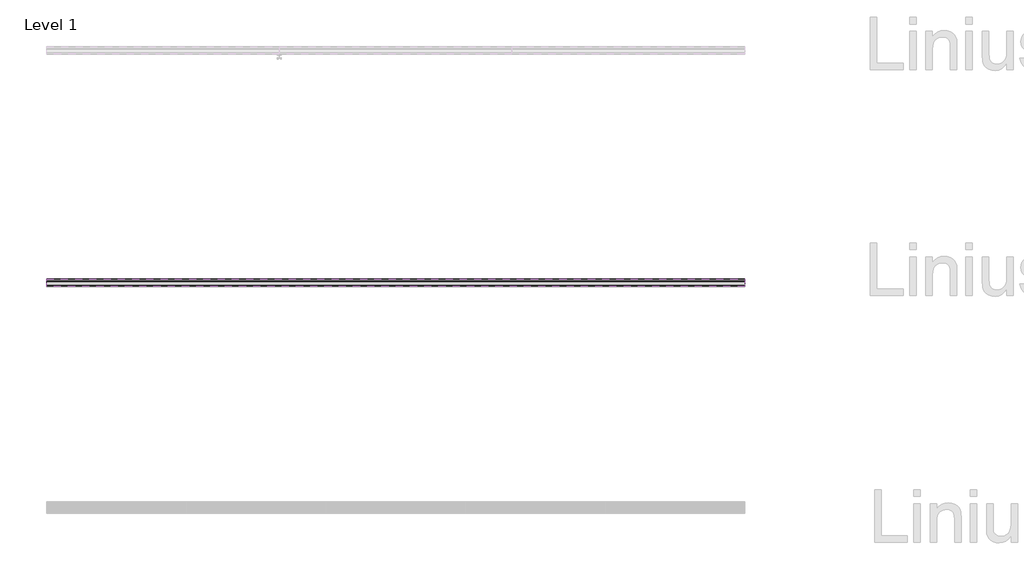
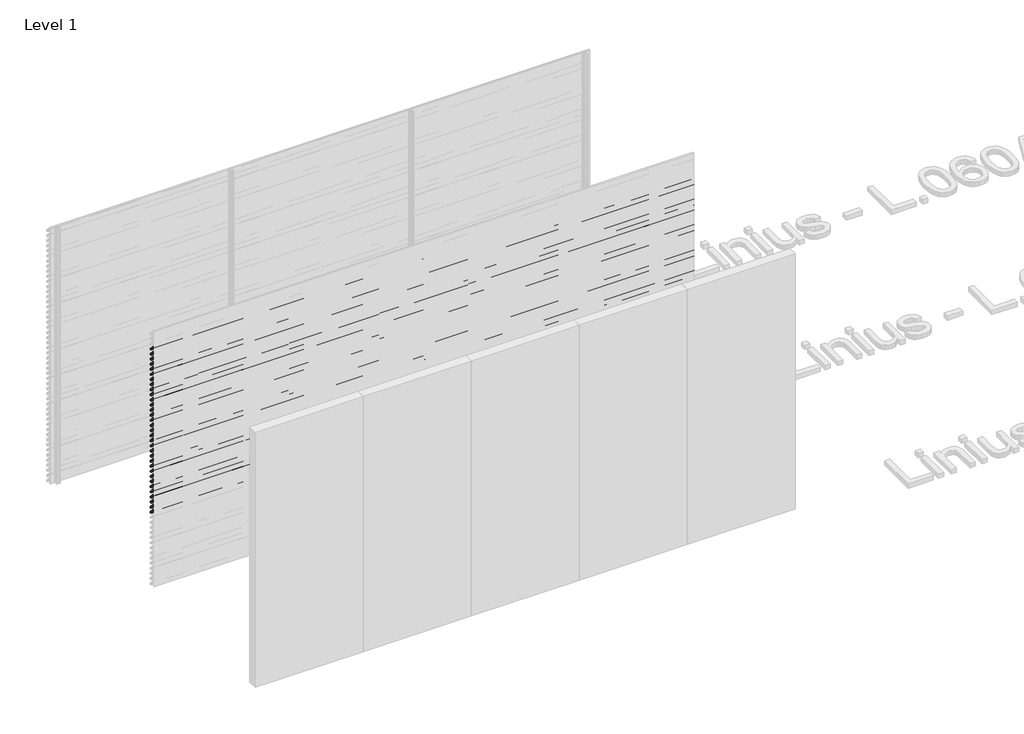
# One storey, part 49 of 153: 33 proxies.
"""IFC4 building model written with IfcOpenShell, lengths in millimetres."""

from ifc_helpers import new_model, si_unit, point, frame, frame_2d, origin, place, context, project, spatial, polyline, circle_curve, trimmed, segment, composite_curve, outline, extrude, element, save

model = new_model("IFC4")

# Units and contexts
model_context = context("Model", 3, world=origin())
ifc_project = project(units=[si_unit("LENGTHUNIT", "METRE", prefix="MILLI")], contexts=[model_context])

# Site, building, storey
site = spatial("IfcSite", under=ifc_project)
building = spatial("IfcBuilding", under=site)
storey = spatial("IfcBuildingStorey", under=building, Name="Level 1", Elevation=0.0)

# Proxies
placement = place(None, origin())
element("IfcBuildingElementProxy", 1, Name="Wall Sweeps", at=placement, inside=storey, context=model_context, shape_type="SweptSolid", body=[
    extrude(outline(composite_curve([segment(polyline([(19485.0540136, 2820.0), (19499.874191, 2818.7034025), (19549.0540136, 2765.0102749), (19549.0540136, 2753.6108187)]), True, "CONTINUOUS"), segment(trimmed(circle_curve(frame_2d((19545.7883652, 2753.897153)), 3.2781774), [point((19549.0540136, 2753.6108187))], [point((19546.4639442, 2750.6893438))], False, "CARTESIAN"), True, "CONTINUOUS"), segment(polyline([(19546.4639442, 2750.6893438), (19534.1895723, 2751.6282758), (19485.0540136, 2805.2730773), (19485.0540136, 2820.0)]), True, "CONTINUOUS")], self_intersect=False), holes=[composite_curve([segment(polyline([(19499.1621773, 2817.2599659), (19486.5540136, 2818.3630372), (19486.5540136, 2805.856213), (19534.8952036, 2753.0786805), (19546.3312542, 2752.2038762)]), True, "CONTINUOUS"), segment(trimmed(circle_curve(frame_2d((19545.7883652, 2753.897153)), 1.7781774), [point((19546.3312542, 2752.2038762))], [point((19547.5540136, 2753.6864389))], True, "CARTESIAN"), True, "CONTINUOUS"), segment(polyline([(19547.5540136, 2753.6864389), (19547.5540136, 2764.4271392), (19499.1621773, 2817.2599659)]), True, "CONTINUOUS")], self_intersect=False)]), frame((44966.6208097, 0.0, 0.0), z_axis=(1.0, 0.0, 0.0), x_axis=(0.0, 1.0, 0.0)), (0.0, 0.0, 1.0), 6000.0),
])
element("IfcBuildingElementProxy", 2, Name="Wall Sweeps", at=placement, inside=storey, context=model_context, shape_type="SweptSolid", body=[
    extrude(outline(composite_curve([segment(polyline([(19485.0540136, 2760.0), (19499.874191, 2758.7034025), (19549.0540136, 2705.0102749), (19549.0540136, 2693.6108187)]), True, "CONTINUOUS"), segment(trimmed(circle_curve(frame_2d((19545.7883652, 2693.897153)), 3.2781774), [point((19549.0540136, 2693.6108187))], [point((19546.4639442, 2690.6893438))], False, "CARTESIAN"), True, "CONTINUOUS"), segment(polyline([(19546.4639442, 2690.6893438), (19534.1895723, 2691.6282758), (19485.0540136, 2745.2730773), (19485.0540136, 2760.0)]), True, "CONTINUOUS")], self_intersect=False), holes=[composite_curve([segment(polyline([(19499.1621773, 2757.2599659), (19486.5540136, 2758.3630372), (19486.5540136, 2745.856213), (19534.8952036, 2693.0786805), (19546.3312542, 2692.2038762)]), True, "CONTINUOUS"), segment(trimmed(circle_curve(frame_2d((19545.7883652, 2693.897153)), 1.7781774), [point((19546.3312542, 2692.2038762))], [point((19547.5540136, 2693.6864389))], True, "CARTESIAN"), True, "CONTINUOUS"), segment(polyline([(19547.5540136, 2693.6864389), (19547.5540136, 2704.4271392), (19499.1621773, 2757.2599659)]), True, "CONTINUOUS")], self_intersect=False)]), frame((44966.6208097, 0.0, 0.0), z_axis=(1.0, 0.0, 0.0), x_axis=(0.0, 1.0, 0.0)), (0.0, 0.0, 1.0), 6000.0),
])
element("IfcBuildingElementProxy", 3, Name="Wall Sweeps", at=placement, inside=storey, context=model_context, shape_type="SweptSolid", body=[
    extrude(outline(composite_curve([segment(polyline([(19485.0540136, 2700.0), (19499.874191, 2698.7034025), (19549.0540136, 2645.0102749), (19549.0540136, 2633.6108187)]), True, "CONTINUOUS"), segment(trimmed(circle_curve(frame_2d((19545.7883652, 2633.897153)), 3.2781774), [point((19549.0540136, 2633.6108187))], [point((19546.4639442, 2630.6893438))], False, "CARTESIAN"), True, "CONTINUOUS"), segment(polyline([(19546.4639442, 2630.6893438), (19534.1895723, 2631.6282758), (19485.0540136, 2685.2730773), (19485.0540136, 2700.0)]), True, "CONTINUOUS")], self_intersect=False), holes=[composite_curve([segment(polyline([(19499.1621773, 2697.2599659), (19486.5540136, 2698.3630372), (19486.5540136, 2685.856213), (19534.8952036, 2633.0786805), (19546.3312542, 2632.2038762)]), True, "CONTINUOUS"), segment(trimmed(circle_curve(frame_2d((19545.7883652, 2633.897153)), 1.7781774), [point((19546.3312542, 2632.2038762))], [point((19547.5540136, 2633.6864389))], True, "CARTESIAN"), True, "CONTINUOUS"), segment(polyline([(19547.5540136, 2633.6864389), (19547.5540136, 2644.4271392), (19499.1621773, 2697.2599659)]), True, "CONTINUOUS")], self_intersect=False)]), frame((44966.6208097, 0.0, 0.0), z_axis=(1.0, 0.0, 0.0), x_axis=(0.0, 1.0, 0.0)), (0.0, 0.0, 1.0), 6000.0),
])
element("IfcBuildingElementProxy", 4, Name="Wall Sweeps", at=placement, inside=storey, context=model_context, shape_type="SweptSolid", body=[
    extrude(outline(composite_curve([segment(polyline([(19485.0540136, 2640.0), (19499.874191, 2638.7034025), (19549.0540136, 2585.0102749), (19549.0540136, 2573.6108187)]), True, "CONTINUOUS"), segment(trimmed(circle_curve(frame_2d((19545.7883652, 2573.897153)), 3.2781774), [point((19549.0540136, 2573.6108187))], [point((19546.4639442, 2570.6893438))], False, "CARTESIAN"), True, "CONTINUOUS"), segment(polyline([(19546.4639442, 2570.6893438), (19534.1895723, 2571.6282758), (19485.0540136, 2625.2730773), (19485.0540136, 2640.0)]), True, "CONTINUOUS")], self_intersect=False), holes=[composite_curve([segment(polyline([(19499.1621773, 2637.2599659), (19486.5540136, 2638.3630372), (19486.5540136, 2625.856213), (19534.8952036, 2573.0786805), (19546.3312542, 2572.2038762)]), True, "CONTINUOUS"), segment(trimmed(circle_curve(frame_2d((19545.7883652, 2573.897153)), 1.7781774), [point((19546.3312542, 2572.2038762))], [point((19547.5540136, 2573.6864389))], True, "CARTESIAN"), True, "CONTINUOUS"), segment(polyline([(19547.5540136, 2573.6864389), (19547.5540136, 2584.4271392), (19499.1621773, 2637.2599659)]), True, "CONTINUOUS")], self_intersect=False)]), frame((44966.6208097, 0.0, 0.0), z_axis=(1.0, 0.0, 0.0), x_axis=(0.0, 1.0, 0.0)), (0.0, 0.0, 1.0), 6000.0),
])
element("IfcBuildingElementProxy", 5, Name="Wall Sweeps", at=placement, inside=storey, context=model_context, shape_type="SweptSolid", body=[
    extrude(outline(composite_curve([segment(polyline([(19485.0540136, 2580.0), (19499.874191, 2578.7034025), (19549.0540136, 2525.0102749), (19549.0540136, 2513.6108187)]), True, "CONTINUOUS"), segment(trimmed(circle_curve(frame_2d((19545.7883652, 2513.897153)), 3.2781774), [point((19549.0540136, 2513.6108187))], [point((19546.4639442, 2510.6893438))], False, "CARTESIAN"), True, "CONTINUOUS"), segment(polyline([(19546.4639442, 2510.6893438), (19534.1895723, 2511.6282758), (19485.0540136, 2565.2730773), (19485.0540136, 2580.0)]), True, "CONTINUOUS")], self_intersect=False), holes=[composite_curve([segment(polyline([(19499.1621773, 2577.2599659), (19486.5540136, 2578.3630372), (19486.5540136, 2565.856213), (19534.8952036, 2513.0786805), (19546.3312542, 2512.2038762)]), True, "CONTINUOUS"), segment(trimmed(circle_curve(frame_2d((19545.7883652, 2513.897153)), 1.7781774), [point((19546.3312542, 2512.2038762))], [point((19547.5540136, 2513.6864389))], True, "CARTESIAN"), True, "CONTINUOUS"), segment(polyline([(19547.5540136, 2513.6864389), (19547.5540136, 2524.4271392), (19499.1621773, 2577.2599659)]), True, "CONTINUOUS")], self_intersect=False)]), frame((44966.6208097, 0.0, 0.0), z_axis=(1.0, 0.0, 0.0), x_axis=(0.0, 1.0, 0.0)), (0.0, 0.0, 1.0), 6000.0),
])
element("IfcBuildingElementProxy", 6, Name="Wall Sweeps", at=placement, inside=storey, context=model_context, shape_type="SweptSolid", body=[
    extrude(outline(composite_curve([segment(polyline([(19485.0540136, 2520.0), (19499.874191, 2518.7034025), (19549.0540136, 2465.0102749), (19549.0540136, 2453.6108187)]), True, "CONTINUOUS"), segment(trimmed(circle_curve(frame_2d((19545.7883652, 2453.897153)), 3.2781774), [point((19549.0540136, 2453.6108187))], [point((19546.4639442, 2450.6893438))], False, "CARTESIAN"), True, "CONTINUOUS"), segment(polyline([(19546.4639442, 2450.6893438), (19534.1895723, 2451.6282758), (19485.0540136, 2505.2730773), (19485.0540136, 2520.0)]), True, "CONTINUOUS")], self_intersect=False), holes=[composite_curve([segment(polyline([(19499.1621773, 2517.2599659), (19486.5540136, 2518.3630372), (19486.5540136, 2505.856213), (19534.8952036, 2453.0786805), (19546.3312542, 2452.2038762)]), True, "CONTINUOUS"), segment(trimmed(circle_curve(frame_2d((19545.7883652, 2453.897153)), 1.7781774), [point((19546.3312542, 2452.2038762))], [point((19547.5540136, 2453.6864389))], True, "CARTESIAN"), True, "CONTINUOUS"), segment(polyline([(19547.5540136, 2453.6864389), (19547.5540136, 2464.4271392), (19499.1621773, 2517.2599659)]), True, "CONTINUOUS")], self_intersect=False)]), frame((44966.6208097, 0.0, 0.0), z_axis=(1.0, 0.0, 0.0), x_axis=(0.0, 1.0, 0.0)), (0.0, 0.0, 1.0), 6000.0),
])
element("IfcBuildingElementProxy", 7, Name="Wall Sweeps", at=placement, inside=storey, context=model_context, shape_type="SweptSolid", body=[
    extrude(outline(composite_curve([segment(polyline([(19485.0540136, 2460.0), (19499.874191, 2458.7034025), (19549.0540136, 2405.0102749), (19549.0540136, 2393.6108187)]), True, "CONTINUOUS"), segment(trimmed(circle_curve(frame_2d((19545.7883652, 2393.897153)), 3.2781774), [point((19549.0540136, 2393.6108187))], [point((19546.4639442, 2390.6893438))], False, "CARTESIAN"), True, "CONTINUOUS"), segment(polyline([(19546.4639442, 2390.6893438), (19534.1895723, 2391.6282758), (19485.0540136, 2445.2730773), (19485.0540136, 2460.0)]), True, "CONTINUOUS")], self_intersect=False), holes=[composite_curve([segment(polyline([(19499.1621773, 2457.2599659), (19486.5540136, 2458.3630372), (19486.5540136, 2445.856213), (19534.8952036, 2393.0786805), (19546.3312542, 2392.2038762)]), True, "CONTINUOUS"), segment(trimmed(circle_curve(frame_2d((19545.7883652, 2393.897153)), 1.7781774), [point((19546.3312542, 2392.2038762))], [point((19547.5540136, 2393.6864389))], True, "CARTESIAN"), True, "CONTINUOUS"), segment(polyline([(19547.5540136, 2393.6864389), (19547.5540136, 2404.4271392), (19499.1621773, 2457.2599659)]), True, "CONTINUOUS")], self_intersect=False)]), frame((44966.6208097, 0.0, 0.0), z_axis=(1.0, 0.0, 0.0), x_axis=(0.0, 1.0, 0.0)), (0.0, 0.0, 1.0), 6000.0),
])
element("IfcBuildingElementProxy", 8, Name="Wall Sweeps", at=placement, inside=storey, context=model_context, shape_type="SweptSolid", body=[
    extrude(outline(composite_curve([segment(polyline([(19485.0540136, 2400.0), (19499.874191, 2398.7034025), (19549.0540136, 2345.0102749), (19549.0540136, 2333.6108187)]), True, "CONTINUOUS"), segment(trimmed(circle_curve(frame_2d((19545.7883652, 2333.897153)), 3.2781774), [point((19549.0540136, 2333.6108187))], [point((19546.4639442, 2330.6893438))], False, "CARTESIAN"), True, "CONTINUOUS"), segment(polyline([(19546.4639442, 2330.6893438), (19534.1895723, 2331.6282758), (19485.0540136, 2385.2730773), (19485.0540136, 2400.0)]), True, "CONTINUOUS")], self_intersect=False), holes=[composite_curve([segment(polyline([(19499.1621773, 2397.2599659), (19486.5540136, 2398.3630372), (19486.5540136, 2385.856213), (19534.8952036, 2333.0786805), (19546.3312542, 2332.2038762)]), True, "CONTINUOUS"), segment(trimmed(circle_curve(frame_2d((19545.7883652, 2333.897153)), 1.7781774), [point((19546.3312542, 2332.2038762))], [point((19547.5540136, 2333.6864389))], True, "CARTESIAN"), True, "CONTINUOUS"), segment(polyline([(19547.5540136, 2333.6864389), (19547.5540136, 2344.4271392), (19499.1621773, 2397.2599659)]), True, "CONTINUOUS")], self_intersect=False)]), frame((44966.6208097, 0.0, 0.0), z_axis=(1.0, 0.0, 0.0), x_axis=(0.0, 1.0, 0.0)), (0.0, 0.0, 1.0), 6000.0),
])
element("IfcBuildingElementProxy", 9, Name="Wall Sweeps", at=placement, inside=storey, context=model_context, shape_type="SweptSolid", body=[
    extrude(outline(composite_curve([segment(polyline([(19485.0540136, 2340.0), (19499.874191, 2338.7034025), (19549.0540136, 2285.0102749), (19549.0540136, 2273.6108187)]), True, "CONTINUOUS"), segment(trimmed(circle_curve(frame_2d((19545.7883652, 2273.897153)), 3.2781774), [point((19549.0540136, 2273.6108187))], [point((19546.4639442, 2270.6893438))], False, "CARTESIAN"), True, "CONTINUOUS"), segment(polyline([(19546.4639442, 2270.6893438), (19534.1895723, 2271.6282758), (19485.0540136, 2325.2730773), (19485.0540136, 2340.0)]), True, "CONTINUOUS")], self_intersect=False), holes=[composite_curve([segment(polyline([(19499.1621773, 2337.2599659), (19486.5540136, 2338.3630372), (19486.5540136, 2325.856213), (19534.8952036, 2273.0786805), (19546.3312542, 2272.2038762)]), True, "CONTINUOUS"), segment(trimmed(circle_curve(frame_2d((19545.7883652, 2273.897153)), 1.7781774), [point((19546.3312542, 2272.2038762))], [point((19547.5540136, 2273.6864389))], True, "CARTESIAN"), True, "CONTINUOUS"), segment(polyline([(19547.5540136, 2273.6864389), (19547.5540136, 2284.4271392), (19499.1621773, 2337.2599659)]), True, "CONTINUOUS")], self_intersect=False)]), frame((44966.6208097, 0.0, 0.0), z_axis=(1.0, 0.0, 0.0), x_axis=(0.0, 1.0, 0.0)), (0.0, 0.0, 1.0), 6000.0),
])
element("IfcBuildingElementProxy", 10, Name="Wall Sweeps", at=placement, inside=storey, context=model_context, shape_type="SweptSolid", body=[
    extrude(outline(composite_curve([segment(polyline([(19485.0540136, 2280.0), (19499.874191, 2278.7034025), (19549.0540136, 2225.0102749), (19549.0540136, 2213.6108187)]), True, "CONTINUOUS"), segment(trimmed(circle_curve(frame_2d((19545.7883652, 2213.897153)), 3.2781774), [point((19549.0540136, 2213.6108187))], [point((19546.4639442, 2210.6893438))], False, "CARTESIAN"), True, "CONTINUOUS"), segment(polyline([(19546.4639442, 2210.6893438), (19534.1895723, 2211.6282758), (19485.0540136, 2265.2730773), (19485.0540136, 2280.0)]), True, "CONTINUOUS")], self_intersect=False), holes=[composite_curve([segment(polyline([(19499.1621773, 2277.2599659), (19486.5540136, 2278.3630372), (19486.5540136, 2265.856213), (19534.8952036, 2213.0786805), (19546.3312542, 2212.2038762)]), True, "CONTINUOUS"), segment(trimmed(circle_curve(frame_2d((19545.7883652, 2213.897153)), 1.7781774), [point((19546.3312542, 2212.2038762))], [point((19547.5540136, 2213.6864389))], True, "CARTESIAN"), True, "CONTINUOUS"), segment(polyline([(19547.5540136, 2213.6864389), (19547.5540136, 2224.4271392), (19499.1621773, 2277.2599659)]), True, "CONTINUOUS")], self_intersect=False)]), frame((44966.6208097, 0.0, 0.0), z_axis=(1.0, 0.0, 0.0), x_axis=(0.0, 1.0, 0.0)), (0.0, 0.0, 1.0), 6000.0),
])
element("IfcBuildingElementProxy", 11, Name="Wall Sweeps", at=placement, inside=storey, context=model_context, shape_type="SweptSolid", body=[
    extrude(outline(composite_curve([segment(polyline([(19485.0540136, 2220.0), (19499.874191, 2218.7034025), (19549.0540136, 2165.0102749), (19549.0540136, 2153.6108187)]), True, "CONTINUOUS"), segment(trimmed(circle_curve(frame_2d((19545.7883652, 2153.897153)), 3.2781774), [point((19549.0540136, 2153.6108187))], [point((19546.4639442, 2150.6893438))], False, "CARTESIAN"), True, "CONTINUOUS"), segment(polyline([(19546.4639442, 2150.6893438), (19534.1895723, 2151.6282758), (19485.0540136, 2205.2730773), (19485.0540136, 2220.0)]), True, "CONTINUOUS")], self_intersect=False), holes=[composite_curve([segment(polyline([(19499.1621773, 2217.2599659), (19486.5540136, 2218.3630372), (19486.5540136, 2205.856213), (19534.8952036, 2153.0786805), (19546.3312542, 2152.2038762)]), True, "CONTINUOUS"), segment(trimmed(circle_curve(frame_2d((19545.7883652, 2153.897153)), 1.7781774), [point((19546.3312542, 2152.2038762))], [point((19547.5540136, 2153.6864389))], True, "CARTESIAN"), True, "CONTINUOUS"), segment(polyline([(19547.5540136, 2153.6864389), (19547.5540136, 2164.4271392), (19499.1621773, 2217.2599659)]), True, "CONTINUOUS")], self_intersect=False)]), frame((44966.6208097, 0.0, 0.0), z_axis=(1.0, 0.0, 0.0), x_axis=(0.0, 1.0, 0.0)), (0.0, 0.0, 1.0), 6000.0),
])
element("IfcBuildingElementProxy", 12, Name="Wall Sweeps", at=placement, inside=storey, context=model_context, shape_type="SweptSolid", body=[
    extrude(outline(composite_curve([segment(polyline([(19485.0540136, 2160.0), (19499.874191, 2158.7034025), (19549.0540136, 2105.0102749), (19549.0540136, 2093.6108187)]), True, "CONTINUOUS"), segment(trimmed(circle_curve(frame_2d((19545.7883652, 2093.897153)), 3.2781774), [point((19549.0540136, 2093.6108187))], [point((19546.4639442, 2090.6893438))], False, "CARTESIAN"), True, "CONTINUOUS"), segment(polyline([(19546.4639442, 2090.6893438), (19534.1895723, 2091.6282758), (19485.0540136, 2145.2730773), (19485.0540136, 2160.0)]), True, "CONTINUOUS")], self_intersect=False), holes=[composite_curve([segment(polyline([(19499.1621773, 2157.2599659), (19486.5540136, 2158.3630372), (19486.5540136, 2145.856213), (19534.8952036, 2093.0786805), (19546.3312542, 2092.2038762)]), True, "CONTINUOUS"), segment(trimmed(circle_curve(frame_2d((19545.7883652, 2093.897153)), 1.7781774), [point((19546.3312542, 2092.2038762))], [point((19547.5540136, 2093.6864389))], True, "CARTESIAN"), True, "CONTINUOUS"), segment(polyline([(19547.5540136, 2093.6864389), (19547.5540136, 2104.4271392), (19499.1621773, 2157.2599659)]), True, "CONTINUOUS")], self_intersect=False)]), frame((44966.6208097, 0.0, 0.0), z_axis=(1.0, 0.0, 0.0), x_axis=(0.0, 1.0, 0.0)), (0.0, 0.0, 1.0), 6000.0),
])
element("IfcBuildingElementProxy", 13, Name="Wall Sweeps", at=placement, inside=storey, context=model_context, shape_type="SweptSolid", body=[
    extrude(outline(composite_curve([segment(polyline([(19485.0540136, 2100.0), (19499.874191, 2098.7034025), (19549.0540136, 2045.0102749), (19549.0540136, 2033.6108187)]), True, "CONTINUOUS"), segment(trimmed(circle_curve(frame_2d((19545.7883652, 2033.897153)), 3.2781774), [point((19549.0540136, 2033.6108187))], [point((19546.4639442, 2030.6893438))], False, "CARTESIAN"), True, "CONTINUOUS"), segment(polyline([(19546.4639442, 2030.6893438), (19534.1895723, 2031.6282758), (19485.0540136, 2085.2730773), (19485.0540136, 2100.0)]), True, "CONTINUOUS")], self_intersect=False), holes=[composite_curve([segment(polyline([(19499.1621773, 2097.2599659), (19486.5540136, 2098.3630372), (19486.5540136, 2085.856213), (19534.8952036, 2033.0786805), (19546.3312542, 2032.2038762)]), True, "CONTINUOUS"), segment(trimmed(circle_curve(frame_2d((19545.7883652, 2033.897153)), 1.7781774), [point((19546.3312542, 2032.2038762))], [point((19547.5540136, 2033.6864389))], True, "CARTESIAN"), True, "CONTINUOUS"), segment(polyline([(19547.5540136, 2033.6864389), (19547.5540136, 2044.4271392), (19499.1621773, 2097.2599659)]), True, "CONTINUOUS")], self_intersect=False)]), frame((44966.6208097, 0.0, 0.0), z_axis=(1.0, 0.0, 0.0), x_axis=(0.0, 1.0, 0.0)), (0.0, 0.0, 1.0), 6000.0),
])
element("IfcBuildingElementProxy", 14, Name="Wall Sweeps", at=placement, inside=storey, context=model_context, shape_type="SweptSolid", body=[
    extrude(outline(composite_curve([segment(polyline([(19485.0540136, 2040.0), (19499.874191, 2038.7034025), (19549.0540136, 1985.0102749), (19549.0540136, 1973.6108187)]), True, "CONTINUOUS"), segment(trimmed(circle_curve(frame_2d((19545.7883652, 1973.897153)), 3.2781774), [point((19549.0540136, 1973.6108187))], [point((19546.4639442, 1970.6893438))], False, "CARTESIAN"), True, "CONTINUOUS"), segment(polyline([(19546.4639442, 1970.6893438), (19534.1895723, 1971.6282758), (19485.0540136, 2025.2730773), (19485.0540136, 2040.0)]), True, "CONTINUOUS")], self_intersect=False), holes=[composite_curve([segment(polyline([(19499.1621773, 2037.2599659), (19486.5540136, 2038.3630372), (19486.5540136, 2025.856213), (19534.8952036, 1973.0786805), (19546.3312542, 1972.2038762)]), True, "CONTINUOUS"), segment(trimmed(circle_curve(frame_2d((19545.7883652, 1973.897153)), 1.7781774), [point((19546.3312542, 1972.2038762))], [point((19547.5540136, 1973.6864389))], True, "CARTESIAN"), True, "CONTINUOUS"), segment(polyline([(19547.5540136, 1973.6864389), (19547.5540136, 1984.4271392), (19499.1621773, 2037.2599659)]), True, "CONTINUOUS")], self_intersect=False)]), frame((44966.6208097, 0.0, 0.0), z_axis=(1.0, 0.0, 0.0), x_axis=(0.0, 1.0, 0.0)), (0.0, 0.0, 1.0), 6000.0),
])
element("IfcBuildingElementProxy", 15, Name="Wall Sweeps", at=placement, inside=storey, context=model_context, shape_type="SweptSolid", body=[
    extrude(outline(composite_curve([segment(polyline([(19485.0540136, 1980.0), (19499.874191, 1978.7034025), (19549.0540136, 1925.0102749), (19549.0540136, 1913.6108187)]), True, "CONTINUOUS"), segment(trimmed(circle_curve(frame_2d((19545.7883652, 1913.897153)), 3.2781774), [point((19549.0540136, 1913.6108187))], [point((19546.4639442, 1910.6893438))], False, "CARTESIAN"), True, "CONTINUOUS"), segment(polyline([(19546.4639442, 1910.6893438), (19534.1895723, 1911.6282758), (19485.0540136, 1965.2730773), (19485.0540136, 1980.0)]), True, "CONTINUOUS")], self_intersect=False), holes=[composite_curve([segment(polyline([(19499.1621773, 1977.2599659), (19486.5540136, 1978.3630372), (19486.5540136, 1965.856213), (19534.8952036, 1913.0786805), (19546.3312542, 1912.2038762)]), True, "CONTINUOUS"), segment(trimmed(circle_curve(frame_2d((19545.7883652, 1913.897153)), 1.7781774), [point((19546.3312542, 1912.2038762))], [point((19547.5540136, 1913.6864389))], True, "CARTESIAN"), True, "CONTINUOUS"), segment(polyline([(19547.5540136, 1913.6864389), (19547.5540136, 1924.4271392), (19499.1621773, 1977.2599659)]), True, "CONTINUOUS")], self_intersect=False)]), frame((44966.6208097, 0.0, 0.0), z_axis=(1.0, 0.0, 0.0), x_axis=(0.0, 1.0, 0.0)), (0.0, 0.0, 1.0), 6000.0),
])
element("IfcBuildingElementProxy", 16, Name="Wall Sweeps", at=placement, inside=storey, context=model_context, shape_type="SweptSolid", body=[
    extrude(outline(composite_curve([segment(polyline([(19485.0540136, 1920.0), (19499.874191, 1918.7034025), (19549.0540136, 1865.0102749), (19549.0540136, 1853.6108187)]), True, "CONTINUOUS"), segment(trimmed(circle_curve(frame_2d((19545.7883652, 1853.897153)), 3.2781774), [point((19549.0540136, 1853.6108187))], [point((19546.4639442, 1850.6893438))], False, "CARTESIAN"), True, "CONTINUOUS"), segment(polyline([(19546.4639442, 1850.6893438), (19534.1895723, 1851.6282758), (19485.0540136, 1905.2730773), (19485.0540136, 1920.0)]), True, "CONTINUOUS")], self_intersect=False), holes=[composite_curve([segment(polyline([(19499.1621773, 1917.2599659), (19486.5540136, 1918.3630372), (19486.5540136, 1905.856213), (19534.8952036, 1853.0786805), (19546.3312542, 1852.2038762)]), True, "CONTINUOUS"), segment(trimmed(circle_curve(frame_2d((19545.7883652, 1853.897153)), 1.7781774), [point((19546.3312542, 1852.2038762))], [point((19547.5540136, 1853.6864389))], True, "CARTESIAN"), True, "CONTINUOUS"), segment(polyline([(19547.5540136, 1853.6864389), (19547.5540136, 1864.4271392), (19499.1621773, 1917.2599659)]), True, "CONTINUOUS")], self_intersect=False)]), frame((44966.6208097, 0.0, 0.0), z_axis=(1.0, 0.0, 0.0), x_axis=(0.0, 1.0, 0.0)), (0.0, 0.0, 1.0), 6000.0),
])
element("IfcBuildingElementProxy", 17, Name="Wall Sweeps", at=placement, inside=storey, context=model_context, shape_type="SweptSolid", body=[
    extrude(outline(composite_curve([segment(polyline([(19485.0540136, 1860.0), (19499.874191, 1858.7034025), (19549.0540136, 1805.0102749), (19549.0540136, 1793.6108187)]), True, "CONTINUOUS"), segment(trimmed(circle_curve(frame_2d((19545.7883652, 1793.897153)), 3.2781774), [point((19549.0540136, 1793.6108187))], [point((19546.4639442, 1790.6893438))], False, "CARTESIAN"), True, "CONTINUOUS"), segment(polyline([(19546.4639442, 1790.6893438), (19534.1895723, 1791.6282758), (19485.0540136, 1845.2730773), (19485.0540136, 1860.0)]), True, "CONTINUOUS")], self_intersect=False), holes=[composite_curve([segment(polyline([(19499.1621773, 1857.2599659), (19486.5540136, 1858.3630372), (19486.5540136, 1845.856213), (19534.8952036, 1793.0786805), (19546.3312542, 1792.2038762)]), True, "CONTINUOUS"), segment(trimmed(circle_curve(frame_2d((19545.7883652, 1793.897153)), 1.7781774), [point((19546.3312542, 1792.2038762))], [point((19547.5540136, 1793.6864389))], True, "CARTESIAN"), True, "CONTINUOUS"), segment(polyline([(19547.5540136, 1793.6864389), (19547.5540136, 1804.4271392), (19499.1621773, 1857.2599659)]), True, "CONTINUOUS")], self_intersect=False)]), frame((44966.6208097, 0.0, 0.0), z_axis=(1.0, 0.0, 0.0), x_axis=(0.0, 1.0, 0.0)), (0.0, 0.0, 1.0), 6000.0),
])
element("IfcBuildingElementProxy", 18, Name="Wall Sweeps", at=placement, inside=storey, context=model_context, shape_type="SweptSolid", body=[
    extrude(outline(composite_curve([segment(polyline([(19485.0540136, 1800.0), (19499.874191, 1798.7034025), (19549.0540136, 1745.0102749), (19549.0540136, 1733.6108187)]), True, "CONTINUOUS"), segment(trimmed(circle_curve(frame_2d((19545.7883652, 1733.897153)), 3.2781774), [point((19549.0540136, 1733.6108187))], [point((19546.4639442, 1730.6893438))], False, "CARTESIAN"), True, "CONTINUOUS"), segment(polyline([(19546.4639442, 1730.6893438), (19534.1895723, 1731.6282758), (19485.0540136, 1785.2730773), (19485.0540136, 1800.0)]), True, "CONTINUOUS")], self_intersect=False), holes=[composite_curve([segment(polyline([(19499.1621773, 1797.2599659), (19486.5540136, 1798.3630372), (19486.5540136, 1785.856213), (19534.8952036, 1733.0786805), (19546.3312542, 1732.2038762)]), True, "CONTINUOUS"), segment(trimmed(circle_curve(frame_2d((19545.7883652, 1733.897153)), 1.7781774), [point((19546.3312542, 1732.2038762))], [point((19547.5540136, 1733.6864389))], True, "CARTESIAN"), True, "CONTINUOUS"), segment(polyline([(19547.5540136, 1733.6864389), (19547.5540136, 1744.4271392), (19499.1621773, 1797.2599659)]), True, "CONTINUOUS")], self_intersect=False)]), frame((44966.6208097, 0.0, 0.0), z_axis=(1.0, 0.0, 0.0), x_axis=(0.0, 1.0, 0.0)), (0.0, 0.0, 1.0), 6000.0),
])
element("IfcBuildingElementProxy", 19, Name="Wall Sweeps", at=placement, inside=storey, context=model_context, shape_type="SweptSolid", body=[
    extrude(outline(composite_curve([segment(polyline([(19485.0540136, 1740.0), (19499.874191, 1738.7034025), (19549.0540136, 1685.0102749), (19549.0540136, 1673.6108187)]), True, "CONTINUOUS"), segment(trimmed(circle_curve(frame_2d((19545.7883652, 1673.897153)), 3.2781774), [point((19549.0540136, 1673.6108187))], [point((19546.4639442, 1670.6893438))], False, "CARTESIAN"), True, "CONTINUOUS"), segment(polyline([(19546.4639442, 1670.6893438), (19534.1895723, 1671.6282758), (19485.0540136, 1725.2730773), (19485.0540136, 1740.0)]), True, "CONTINUOUS")], self_intersect=False), holes=[composite_curve([segment(polyline([(19499.1621773, 1737.2599659), (19486.5540136, 1738.3630372), (19486.5540136, 1725.856213), (19534.8952036, 1673.0786805), (19546.3312542, 1672.2038762)]), True, "CONTINUOUS"), segment(trimmed(circle_curve(frame_2d((19545.7883652, 1673.897153)), 1.7781774), [point((19546.3312542, 1672.2038762))], [point((19547.5540136, 1673.6864389))], True, "CARTESIAN"), True, "CONTINUOUS"), segment(polyline([(19547.5540136, 1673.6864389), (19547.5540136, 1684.4271392), (19499.1621773, 1737.2599659)]), True, "CONTINUOUS")], self_intersect=False)]), frame((44966.6208097, 0.0, 0.0), z_axis=(1.0, 0.0, 0.0), x_axis=(0.0, 1.0, 0.0)), (0.0, 0.0, 1.0), 6000.0),
])
element("IfcBuildingElementProxy", 20, Name="Wall Sweeps", at=placement, inside=storey, context=model_context, shape_type="SweptSolid", body=[
    extrude(outline(composite_curve([segment(polyline([(19485.0540136, 1680.0), (19499.874191, 1678.7034025), (19549.0540136, 1625.0102749), (19549.0540136, 1613.6108187)]), True, "CONTINUOUS"), segment(trimmed(circle_curve(frame_2d((19545.7883652, 1613.897153)), 3.2781774), [point((19549.0540136, 1613.6108187))], [point((19546.4639442, 1610.6893438))], False, "CARTESIAN"), True, "CONTINUOUS"), segment(polyline([(19546.4639442, 1610.6893438), (19534.1895723, 1611.6282758), (19485.0540136, 1665.2730773), (19485.0540136, 1680.0)]), True, "CONTINUOUS")], self_intersect=False), holes=[composite_curve([segment(polyline([(19499.1621773, 1677.2599659), (19486.5540136, 1678.3630372), (19486.5540136, 1665.856213), (19534.8952036, 1613.0786805), (19546.3312542, 1612.2038762)]), True, "CONTINUOUS"), segment(trimmed(circle_curve(frame_2d((19545.7883652, 1613.897153)), 1.7781774), [point((19546.3312542, 1612.2038762))], [point((19547.5540136, 1613.6864389))], True, "CARTESIAN"), True, "CONTINUOUS"), segment(polyline([(19547.5540136, 1613.6864389), (19547.5540136, 1624.4271392), (19499.1621773, 1677.2599659)]), True, "CONTINUOUS")], self_intersect=False)]), frame((44966.6208097, 0.0, 0.0), z_axis=(1.0, 0.0, 0.0), x_axis=(0.0, 1.0, 0.0)), (0.0, 0.0, 1.0), 6000.0),
])
element("IfcBuildingElementProxy", 21, Name="Wall Sweeps", at=placement, inside=storey, context=model_context, shape_type="SweptSolid", body=[
    extrude(outline(composite_curve([segment(polyline([(19485.0540136, 1620.0), (19499.874191, 1618.7034025), (19549.0540136, 1565.0102749), (19549.0540136, 1553.6108187)]), True, "CONTINUOUS"), segment(trimmed(circle_curve(frame_2d((19545.7883652, 1553.897153)), 3.2781774), [point((19549.0540136, 1553.6108187))], [point((19546.4639442, 1550.6893438))], False, "CARTESIAN"), True, "CONTINUOUS"), segment(polyline([(19546.4639442, 1550.6893438), (19534.1895723, 1551.6282758), (19485.0540136, 1605.2730773), (19485.0540136, 1620.0)]), True, "CONTINUOUS")], self_intersect=False), holes=[composite_curve([segment(polyline([(19499.1621773, 1617.2599659), (19486.5540136, 1618.3630372), (19486.5540136, 1605.856213), (19534.8952036, 1553.0786805), (19546.3312542, 1552.2038762)]), True, "CONTINUOUS"), segment(trimmed(circle_curve(frame_2d((19545.7883652, 1553.897153)), 1.7781774), [point((19546.3312542, 1552.2038762))], [point((19547.5540136, 1553.6864389))], True, "CARTESIAN"), True, "CONTINUOUS"), segment(polyline([(19547.5540136, 1553.6864389), (19547.5540136, 1564.4271392), (19499.1621773, 1617.2599659)]), True, "CONTINUOUS")], self_intersect=False)]), frame((44966.6208097, 0.0, 0.0), z_axis=(1.0, 0.0, 0.0), x_axis=(0.0, 1.0, 0.0)), (0.0, 0.0, 1.0), 6000.0),
])
element("IfcBuildingElementProxy", 22, Name="Wall Sweeps", at=placement, inside=storey, context=model_context, shape_type="SweptSolid", body=[
    extrude(outline(composite_curve([segment(polyline([(19485.0540136, 1560.0), (19499.874191, 1558.7034025), (19549.0540136, 1505.0102749), (19549.0540136, 1493.6108187)]), True, "CONTINUOUS"), segment(trimmed(circle_curve(frame_2d((19545.7883652, 1493.897153)), 3.2781774), [point((19549.0540136, 1493.6108187))], [point((19546.4639442, 1490.6893438))], False, "CARTESIAN"), True, "CONTINUOUS"), segment(polyline([(19546.4639442, 1490.6893438), (19534.1895723, 1491.6282758), (19485.0540136, 1545.2730773), (19485.0540136, 1560.0)]), True, "CONTINUOUS")], self_intersect=False), holes=[composite_curve([segment(polyline([(19499.1621773, 1557.2599659), (19486.5540136, 1558.3630372), (19486.5540136, 1545.856213), (19534.8952036, 1493.0786805), (19546.3312542, 1492.2038762)]), True, "CONTINUOUS"), segment(trimmed(circle_curve(frame_2d((19545.7883652, 1493.897153)), 1.7781774), [point((19546.3312542, 1492.2038762))], [point((19547.5540136, 1493.6864389))], True, "CARTESIAN"), True, "CONTINUOUS"), segment(polyline([(19547.5540136, 1493.6864389), (19547.5540136, 1504.4271392), (19499.1621773, 1557.2599659)]), True, "CONTINUOUS")], self_intersect=False)]), frame((44966.6208097, 0.0, 0.0), z_axis=(1.0, 0.0, 0.0), x_axis=(0.0, 1.0, 0.0)), (0.0, 0.0, 1.0), 6000.0),
])
element("IfcBuildingElementProxy", 23, Name="Wall Sweeps", at=placement, inside=storey, context=model_context, shape_type="SweptSolid", body=[
    extrude(outline(composite_curve([segment(polyline([(19485.0540136, 1500.0), (19499.874191, 1498.7034025), (19549.0540136, 1445.0102749), (19549.0540136, 1433.6108187)]), True, "CONTINUOUS"), segment(trimmed(circle_curve(frame_2d((19545.7883652, 1433.897153)), 3.2781774), [point((19549.0540136, 1433.6108187))], [point((19546.4639442, 1430.6893438))], False, "CARTESIAN"), True, "CONTINUOUS"), segment(polyline([(19546.4639442, 1430.6893438), (19534.1895723, 1431.6282758), (19485.0540136, 1485.2730773), (19485.0540136, 1500.0)]), True, "CONTINUOUS")], self_intersect=False), holes=[composite_curve([segment(polyline([(19499.1621773, 1497.2599659), (19486.5540136, 1498.3630372), (19486.5540136, 1485.856213), (19534.8952036, 1433.0786805), (19546.3312542, 1432.2038762)]), True, "CONTINUOUS"), segment(trimmed(circle_curve(frame_2d((19545.7883652, 1433.897153)), 1.7781774), [point((19546.3312542, 1432.2038762))], [point((19547.5540136, 1433.6864389))], True, "CARTESIAN"), True, "CONTINUOUS"), segment(polyline([(19547.5540136, 1433.6864389), (19547.5540136, 1444.4271392), (19499.1621773, 1497.2599659)]), True, "CONTINUOUS")], self_intersect=False)]), frame((44966.6208097, 0.0, 0.0), z_axis=(1.0, 0.0, 0.0), x_axis=(0.0, 1.0, 0.0)), (0.0, 0.0, 1.0), 6000.0),
])
element("IfcBuildingElementProxy", 24, Name="Wall Sweeps", at=placement, inside=storey, context=model_context, shape_type="SweptSolid", body=[
    extrude(outline(composite_curve([segment(polyline([(19485.0540136, 1440.0), (19499.874191, 1438.7034025), (19549.0540136, 1385.0102749), (19549.0540136, 1373.6108187)]), True, "CONTINUOUS"), segment(trimmed(circle_curve(frame_2d((19545.7883652, 1373.897153)), 3.2781774), [point((19549.0540136, 1373.6108187))], [point((19546.4639442, 1370.6893438))], False, "CARTESIAN"), True, "CONTINUOUS"), segment(polyline([(19546.4639442, 1370.6893438), (19534.1895723, 1371.6282758), (19485.0540136, 1425.2730773), (19485.0540136, 1440.0)]), True, "CONTINUOUS")], self_intersect=False), holes=[composite_curve([segment(polyline([(19499.1621773, 1437.2599659), (19486.5540136, 1438.3630372), (19486.5540136, 1425.856213), (19534.8952036, 1373.0786805), (19546.3312542, 1372.2038762)]), True, "CONTINUOUS"), segment(trimmed(circle_curve(frame_2d((19545.7883652, 1373.897153)), 1.7781774), [point((19546.3312542, 1372.2038762))], [point((19547.5540136, 1373.6864389))], True, "CARTESIAN"), True, "CONTINUOUS"), segment(polyline([(19547.5540136, 1373.6864389), (19547.5540136, 1384.4271392), (19499.1621773, 1437.2599659)]), True, "CONTINUOUS")], self_intersect=False)]), frame((44966.6208097, 0.0, 0.0), z_axis=(1.0, 0.0, 0.0), x_axis=(0.0, 1.0, 0.0)), (0.0, 0.0, 1.0), 6000.0),
])
element("IfcBuildingElementProxy", 25, Name="Wall Sweeps", at=placement, inside=storey, context=model_context, shape_type="SweptSolid", body=[
    extrude(outline(composite_curve([segment(polyline([(19485.0540136, 1380.0), (19499.874191, 1378.7034025), (19549.0540136, 1325.0102749), (19549.0540136, 1313.6108187)]), True, "CONTINUOUS"), segment(trimmed(circle_curve(frame_2d((19545.7883652, 1313.897153)), 3.2781774), [point((19549.0540136, 1313.6108187))], [point((19546.4639442, 1310.6893438))], False, "CARTESIAN"), True, "CONTINUOUS"), segment(polyline([(19546.4639442, 1310.6893438), (19534.1895723, 1311.6282758), (19485.0540136, 1365.2730773), (19485.0540136, 1380.0)]), True, "CONTINUOUS")], self_intersect=False), holes=[composite_curve([segment(polyline([(19499.1621773, 1377.2599659), (19486.5540136, 1378.3630372), (19486.5540136, 1365.856213), (19534.8952036, 1313.0786805), (19546.3312542, 1312.2038762)]), True, "CONTINUOUS"), segment(trimmed(circle_curve(frame_2d((19545.7883652, 1313.897153)), 1.7781774), [point((19546.3312542, 1312.2038762))], [point((19547.5540136, 1313.6864389))], True, "CARTESIAN"), True, "CONTINUOUS"), segment(polyline([(19547.5540136, 1313.6864389), (19547.5540136, 1324.4271392), (19499.1621773, 1377.2599659)]), True, "CONTINUOUS")], self_intersect=False)]), frame((44966.6208097, 0.0, 0.0), z_axis=(1.0, 0.0, 0.0), x_axis=(0.0, 1.0, 0.0)), (0.0, 0.0, 1.0), 6000.0),
])
element("IfcBuildingElementProxy", 26, Name="Wall Sweeps", at=placement, inside=storey, context=model_context, shape_type="SweptSolid", body=[
    extrude(outline(composite_curve([segment(polyline([(19485.0540136, 1320.0), (19499.874191, 1318.7034025), (19549.0540136, 1265.0102749), (19549.0540136, 1253.6108187)]), True, "CONTINUOUS"), segment(trimmed(circle_curve(frame_2d((19545.7883652, 1253.897153)), 3.2781774), [point((19549.0540136, 1253.6108187))], [point((19546.4639442, 1250.6893438))], False, "CARTESIAN"), True, "CONTINUOUS"), segment(polyline([(19546.4639442, 1250.6893438), (19534.1895723, 1251.6282758), (19485.0540136, 1305.2730773), (19485.0540136, 1320.0)]), True, "CONTINUOUS")], self_intersect=False), holes=[composite_curve([segment(polyline([(19499.1621773, 1317.2599659), (19486.5540136, 1318.3630372), (19486.5540136, 1305.856213), (19534.8952036, 1253.0786805), (19546.3312542, 1252.2038762)]), True, "CONTINUOUS"), segment(trimmed(circle_curve(frame_2d((19545.7883652, 1253.897153)), 1.7781774), [point((19546.3312542, 1252.2038762))], [point((19547.5540136, 1253.6864389))], True, "CARTESIAN"), True, "CONTINUOUS"), segment(polyline([(19547.5540136, 1253.6864389), (19547.5540136, 1264.4271392), (19499.1621773, 1317.2599659)]), True, "CONTINUOUS")], self_intersect=False)]), frame((44966.6208097, 0.0, 0.0), z_axis=(1.0, 0.0, 0.0), x_axis=(0.0, 1.0, 0.0)), (0.0, 0.0, 1.0), 6000.0),
])
element("IfcBuildingElementProxy", 27, Name="Wall Sweeps", at=placement, inside=storey, context=model_context, shape_type="SweptSolid", body=[
    extrude(outline(composite_curve([segment(polyline([(19485.0540136, 1260.0), (19499.874191, 1258.7034025), (19549.0540136, 1205.0102749), (19549.0540136, 1193.6108187)]), True, "CONTINUOUS"), segment(trimmed(circle_curve(frame_2d((19545.7883652, 1193.897153)), 3.2781774), [point((19549.0540136, 1193.6108187))], [point((19546.4639442, 1190.6893438))], False, "CARTESIAN"), True, "CONTINUOUS"), segment(polyline([(19546.4639442, 1190.6893438), (19534.1895723, 1191.6282758), (19485.0540136, 1245.2730773), (19485.0540136, 1260.0)]), True, "CONTINUOUS")], self_intersect=False), holes=[composite_curve([segment(polyline([(19499.1621773, 1257.2599659), (19486.5540136, 1258.3630372), (19486.5540136, 1245.856213), (19534.8952036, 1193.0786805), (19546.3312542, 1192.2038762)]), True, "CONTINUOUS"), segment(trimmed(circle_curve(frame_2d((19545.7883652, 1193.897153)), 1.7781774), [point((19546.3312542, 1192.2038762))], [point((19547.5540136, 1193.6864389))], True, "CARTESIAN"), True, "CONTINUOUS"), segment(polyline([(19547.5540136, 1193.6864389), (19547.5540136, 1204.4271392), (19499.1621773, 1257.2599659)]), True, "CONTINUOUS")], self_intersect=False)]), frame((44966.6208097, 0.0, 0.0), z_axis=(1.0, 0.0, 0.0), x_axis=(0.0, 1.0, 0.0)), (0.0, 0.0, 1.0), 6000.0),
])
element("IfcBuildingElementProxy", 28, Name="Wall Sweeps", at=placement, inside=storey, context=model_context, shape_type="SweptSolid", body=[
    extrude(outline(composite_curve([segment(polyline([(19485.0540136, 1200.0), (19499.874191, 1198.7034025), (19549.0540136, 1145.0102749), (19549.0540136, 1133.6108187)]), True, "CONTINUOUS"), segment(trimmed(circle_curve(frame_2d((19545.7883652, 1133.897153)), 3.2781774), [point((19549.0540136, 1133.6108187))], [point((19546.4639442, 1130.6893438))], False, "CARTESIAN"), True, "CONTINUOUS"), segment(polyline([(19546.4639442, 1130.6893438), (19534.1895723, 1131.6282758), (19485.0540136, 1185.2730773), (19485.0540136, 1200.0)]), True, "CONTINUOUS")], self_intersect=False), holes=[composite_curve([segment(polyline([(19499.1621773, 1197.2599659), (19486.5540136, 1198.3630372), (19486.5540136, 1185.856213), (19534.8952036, 1133.0786805), (19546.3312542, 1132.2038762)]), True, "CONTINUOUS"), segment(trimmed(circle_curve(frame_2d((19545.7883652, 1133.897153)), 1.7781774), [point((19546.3312542, 1132.2038762))], [point((19547.5540136, 1133.6864389))], True, "CARTESIAN"), True, "CONTINUOUS"), segment(polyline([(19547.5540136, 1133.6864389), (19547.5540136, 1144.4271392), (19499.1621773, 1197.2599659)]), True, "CONTINUOUS")], self_intersect=False)]), frame((44966.6208097, 0.0, 0.0), z_axis=(1.0, 0.0, 0.0), x_axis=(0.0, 1.0, 0.0)), (0.0, 0.0, 1.0), 6000.0),
])
element("IfcBuildingElementProxy", 29, Name="Wall Sweeps", at=placement, inside=storey, context=model_context, shape_type="SweptSolid", body=[
    extrude(outline(composite_curve([segment(polyline([(19485.0540136, 1140.0), (19499.874191, 1138.7034025), (19549.0540136, 1085.0102749), (19549.0540136, 1073.6108187)]), True, "CONTINUOUS"), segment(trimmed(circle_curve(frame_2d((19545.7883652, 1073.897153)), 3.2781774), [point((19549.0540136, 1073.6108187))], [point((19546.4639442, 1070.6893438))], False, "CARTESIAN"), True, "CONTINUOUS"), segment(polyline([(19546.4639442, 1070.6893438), (19534.1895723, 1071.6282758), (19485.0540136, 1125.2730773), (19485.0540136, 1140.0)]), True, "CONTINUOUS")], self_intersect=False), holes=[composite_curve([segment(polyline([(19499.1621773, 1137.2599659), (19486.5540136, 1138.3630372), (19486.5540136, 1125.856213), (19534.8952036, 1073.0786805), (19546.3312542, 1072.2038762)]), True, "CONTINUOUS"), segment(trimmed(circle_curve(frame_2d((19545.7883652, 1073.897153)), 1.7781774), [point((19546.3312542, 1072.2038762))], [point((19547.5540136, 1073.6864389))], True, "CARTESIAN"), True, "CONTINUOUS"), segment(polyline([(19547.5540136, 1073.6864389), (19547.5540136, 1084.4271392), (19499.1621773, 1137.2599659)]), True, "CONTINUOUS")], self_intersect=False)]), frame((44966.6208097, 0.0, 0.0), z_axis=(1.0, 0.0, 0.0), x_axis=(0.0, 1.0, 0.0)), (0.0, 0.0, 1.0), 6000.0),
])
element("IfcBuildingElementProxy", 30, Name="Wall Sweeps", at=placement, inside=storey, context=model_context, shape_type="SweptSolid", body=[
    extrude(outline(composite_curve([segment(polyline([(19485.0540136, 1080.0), (19499.874191, 1078.7034025), (19549.0540136, 1025.0102749), (19549.0540136, 1013.6108187)]), True, "CONTINUOUS"), segment(trimmed(circle_curve(frame_2d((19545.7883652, 1013.897153)), 3.2781774), [point((19549.0540136, 1013.6108187))], [point((19546.4639442, 1010.6893438))], False, "CARTESIAN"), True, "CONTINUOUS"), segment(polyline([(19546.4639442, 1010.6893438), (19534.1895723, 1011.6282758), (19485.0540136, 1065.2730773), (19485.0540136, 1080.0)]), True, "CONTINUOUS")], self_intersect=False), holes=[composite_curve([segment(polyline([(19499.1621773, 1077.2599659), (19486.5540136, 1078.3630372), (19486.5540136, 1065.856213), (19534.8952036, 1013.0786805), (19546.3312542, 1012.2038762)]), True, "CONTINUOUS"), segment(trimmed(circle_curve(frame_2d((19545.7883652, 1013.897153)), 1.7781774), [point((19546.3312542, 1012.2038762))], [point((19547.5540136, 1013.6864389))], True, "CARTESIAN"), True, "CONTINUOUS"), segment(polyline([(19547.5540136, 1013.6864389), (19547.5540136, 1024.4271392), (19499.1621773, 1077.2599659)]), True, "CONTINUOUS")], self_intersect=False)]), frame((44966.6208097, 0.0, 0.0), z_axis=(1.0, 0.0, 0.0), x_axis=(0.0, 1.0, 0.0)), (0.0, 0.0, 1.0), 6000.0),
])
element("IfcBuildingElementProxy", 31, Name="Wall Sweeps", at=placement, inside=storey, context=model_context, shape_type="SweptSolid", body=[
    extrude(outline(composite_curve([segment(polyline([(19485.0540136, 1020.0), (19499.874191, 1018.7034025), (19549.0540136, 965.0102749), (19549.0540136, 953.6108187)]), True, "CONTINUOUS"), segment(trimmed(circle_curve(frame_2d((19545.7883652, 953.897153)), 3.2781774), [point((19549.0540136, 953.6108187))], [point((19546.4639442, 950.6893438))], False, "CARTESIAN"), True, "CONTINUOUS"), segment(polyline([(19546.4639442, 950.6893438), (19534.1895723, 951.6282758), (19485.0540136, 1005.2730773), (19485.0540136, 1020.0)]), True, "CONTINUOUS")], self_intersect=False), holes=[composite_curve([segment(polyline([(19499.1621773, 1017.2599659), (19486.5540136, 1018.3630372), (19486.5540136, 1005.856213), (19534.8952036, 953.0786805), (19546.3312542, 952.2038762)]), True, "CONTINUOUS"), segment(trimmed(circle_curve(frame_2d((19545.7883652, 953.897153)), 1.7781774), [point((19546.3312542, 952.2038762))], [point((19547.5540136, 953.6864389))], True, "CARTESIAN"), True, "CONTINUOUS"), segment(polyline([(19547.5540136, 953.6864389), (19547.5540136, 964.4271392), (19499.1621773, 1017.2599659)]), True, "CONTINUOUS")], self_intersect=False)]), frame((44966.6208097, 0.0, 0.0), z_axis=(1.0, 0.0, 0.0), x_axis=(0.0, 1.0, 0.0)), (0.0, 0.0, 1.0), 6000.0),
])
element("IfcBuildingElementProxy", 32, Name="Wall Sweeps", at=placement, inside=storey, context=model_context, shape_type="SweptSolid", body=[
    extrude(outline(composite_curve([segment(polyline([(19485.0540136, 960.0), (19499.874191, 958.7034025), (19549.0540136, 905.0102749), (19549.0540136, 893.6108187)]), True, "CONTINUOUS"), segment(trimmed(circle_curve(frame_2d((19545.7883652, 893.897153)), 3.2781774), [point((19549.0540136, 893.6108187))], [point((19546.4639442, 890.6893438))], False, "CARTESIAN"), True, "CONTINUOUS"), segment(polyline([(19546.4639442, 890.6893438), (19534.1895723, 891.6282758), (19485.0540136, 945.2730773), (19485.0540136, 960.0)]), True, "CONTINUOUS")], self_intersect=False), holes=[composite_curve([segment(polyline([(19499.1621773, 957.2599659), (19486.5540136, 958.3630372), (19486.5540136, 945.856213), (19534.8952036, 893.0786805), (19546.3312542, 892.2038762)]), True, "CONTINUOUS"), segment(trimmed(circle_curve(frame_2d((19545.7883652, 893.897153)), 1.7781774), [point((19546.3312542, 892.2038762))], [point((19547.5540136, 893.6864389))], True, "CARTESIAN"), True, "CONTINUOUS"), segment(polyline([(19547.5540136, 893.6864389), (19547.5540136, 904.4271392), (19499.1621773, 957.2599659)]), True, "CONTINUOUS")], self_intersect=False)]), frame((44966.6208097, 0.0, 0.0), z_axis=(1.0, 0.0, 0.0), x_axis=(0.0, 1.0, 0.0)), (0.0, 0.0, 1.0), 6000.0),
])
element("IfcBuildingElementProxy", 33, Name="Wall Sweeps", at=placement, inside=storey, context=model_context, shape_type="SweptSolid", body=[
    extrude(outline(composite_curve([segment(polyline([(19485.0540136, 900.0), (19499.874191, 898.7034025), (19549.0540136, 845.0102749), (19549.0540136, 833.6108187)]), True, "CONTINUOUS"), segment(trimmed(circle_curve(frame_2d((19545.7883652, 833.897153)), 3.2781774), [point((19549.0540136, 833.6108187))], [point((19546.4639442, 830.6893438))], False, "CARTESIAN"), True, "CONTINUOUS"), segment(polyline([(19546.4639442, 830.6893438), (19534.1895723, 831.6282758), (19485.0540136, 885.2730773), (19485.0540136, 900.0)]), True, "CONTINUOUS")], self_intersect=False), holes=[composite_curve([segment(polyline([(19499.1621773, 897.2599659), (19486.5540136, 898.3630372), (19486.5540136, 885.856213), (19534.8952036, 833.0786805), (19546.3312542, 832.2038762)]), True, "CONTINUOUS"), segment(trimmed(circle_curve(frame_2d((19545.7883652, 833.897153)), 1.7781774), [point((19546.3312542, 832.2038762))], [point((19547.5540136, 833.6864389))], True, "CARTESIAN"), True, "CONTINUOUS"), segment(polyline([(19547.5540136, 833.6864389), (19547.5540136, 844.4271392), (19499.1621773, 897.2599659)]), True, "CONTINUOUS")], self_intersect=False)]), frame((44966.6208097, 0.0, 0.0), z_axis=(1.0, 0.0, 0.0), x_axis=(0.0, 1.0, 0.0)), (0.0, 0.0, 1.0), 6000.0),
])

save(model, "model.ifc")
